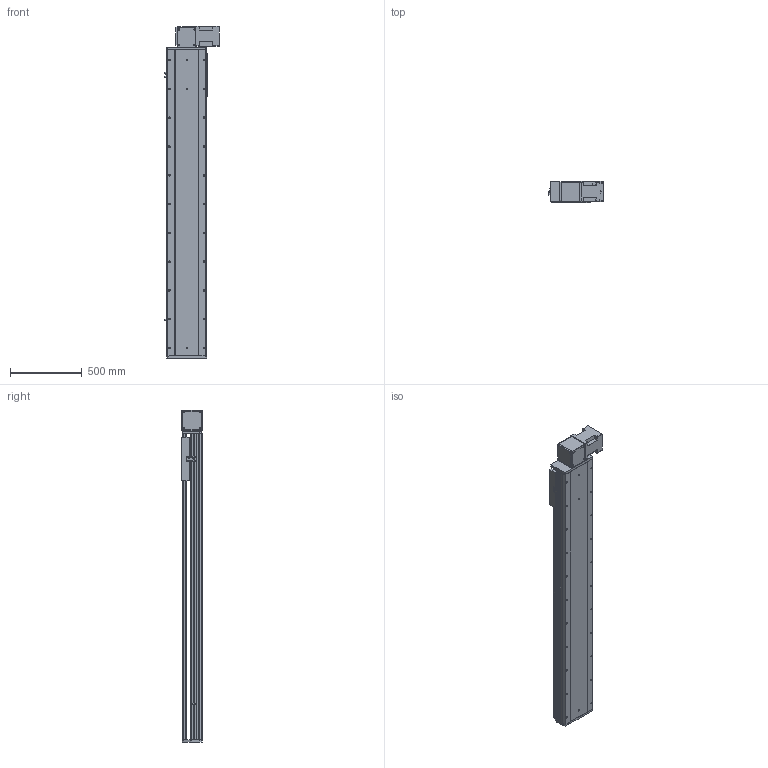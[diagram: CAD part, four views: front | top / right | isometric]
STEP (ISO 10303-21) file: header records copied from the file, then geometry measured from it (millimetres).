
FILE_DESCRIPTION (( 'STEP AP214' ), '1' );
FILE_NAME ('RTB28S-XX-1700-BL-M100-XX-C4.STEP', '2025-12-22T02:24:22', ( '' ), ( '' ), 'SwSTEP 2.0', 'SolidWorks 2018', '' );
FILE_SCHEMA (( 'AUTOMOTIVE_DESIGN' ));
Length unit declared in the file: millimetre
Products named in the file (4): RTB28S-XX-1700-BL-M100-XX-C4; RTB28S-GY-008^RTB28S-XX-XX-BL-M100-XX-C4; RTB28S-GY-011^RTB28S-XX-XX-BL-M100-XX-C4; RTB28S-GY-004^RTB28S-XX-XX-BL-M100-XX-C4
Assembly tree (3 placements, depth 2):
  RTB28S-XX-1700-BL-M100-XX-C4
    RTB28S-GY-011^RTB28S-XX-XX-BL-M100-XX-C4
    RTB28S-GY-004^RTB28S-XX-XX-BL-M100-XX-C4
    RTB28S-GY-008^RTB28S-XX-XX-BL-M100-XX-C4
Bounding box: 380.7 x 145 x 2307 mm (x, y, z)
Volume: 40643609.6 mm3; surface area: 3854853 mm2
Topology: 3 solids, 4 shells, 818 faces, 2178 edges, 1388 vertices
Faces by surface type: cylinder 383, plane 351, cone 80, torus 4
Entity records: 30971 total; most frequent: CARTESIAN_POINT 5452, DIRECTION 4620, ORIENTED_EDGE 4292, EDGE_CURVE 2146, AXIS2_PLACEMENT_3D 1680, VERTEX_POINT 1388, LINE 1260, VECTOR 1260
